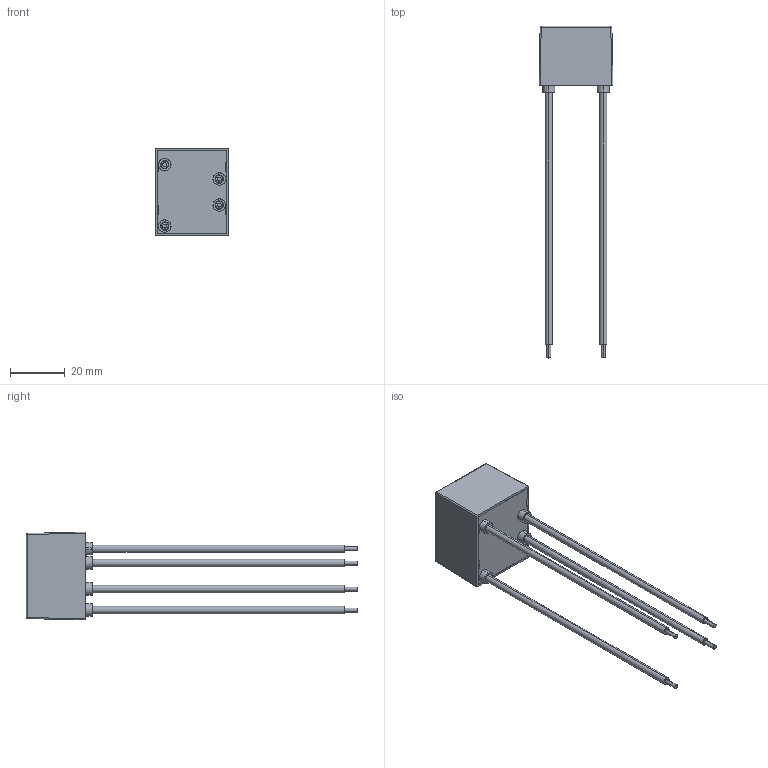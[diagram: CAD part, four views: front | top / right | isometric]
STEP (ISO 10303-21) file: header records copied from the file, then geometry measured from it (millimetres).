
FILE_DESCRIPTION(('FreeCAD Model'),'2;1');
FILE_NAME('X:/Application Engineering/4 Documentation/3 Users/1 MaS/3D Projekt/RAC05-K_277_W_3D_20190723.step','2019-07-23T13:33:05',('Author') ,(''),'Open CASCADE STEP processor 7.3','FreeCAD','Unknown');
FILE_SCHEMA(('AUTOMOTIVE_DESIGN { 1 0 10303 214 1 1 1 1 }'));
Length unit declared in the file: millimetre
Products named in the file (3): RAC05-K_277_W_cables; RAC05-K_277_W_base_plate; RAC05-K_277_W_case
Bounding box: 27.1 x 121.8 x 32.1 mm (x, y, z)
Volume: 7615.3 mm3; surface area: 13833.4 mm2
Topology: 3 solids, 3 shells, 269 faces, 684 edges, 444 vertices
Faces by surface type: plane 177, cylinder 54, cone 34, sphere 4
Entity records: 9182 total; most frequent: CARTESIAN_POINT 1433, DIRECTION 1368, ORIENTED_EDGE 1360, EDGE_CURVE 680, LINE 516, VECTOR 516, VERTEX_POINT 444, AXIS2_PLACEMENT_3D 426
